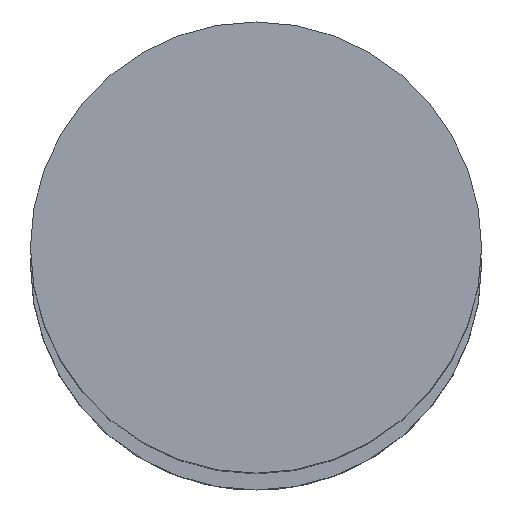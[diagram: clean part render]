
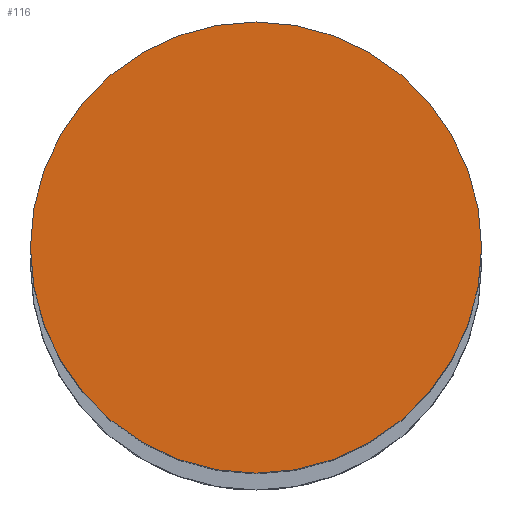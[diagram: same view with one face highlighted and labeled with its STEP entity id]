
A CAD part, top view. The second image highlights one B-rep face of the part: STEP entity #116.
In plain terms, the highlighted planar face has unit normal (0, 0, 1).
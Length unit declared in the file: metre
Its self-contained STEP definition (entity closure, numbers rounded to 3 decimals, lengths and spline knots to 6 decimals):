
#116=ADVANCED_FACE('0:129',(#224),#225,.T.);
#224=FACE_OUTER_BOUND('',#324,.T.);
#225=PLANE('',#325);
#324=EDGE_LOOP('',(#539,#540));
#325=AXIS2_PLACEMENT_3D('',#541,#542,#543);
#539=ORIENTED_EDGE('',*,*,#591,.F.);
#540=ORIENTED_EDGE('',*,*,#641,.F.);
#541=CARTESIAN_POINT('',(0.,0.,0.27));
#542=DIRECTION('',(0.0,0.0,1.0));
#543=DIRECTION('',(1.0,0.0,0.0));
#591=EDGE_CURVE('',#712,#708,#714,.F.);
#641=EDGE_CURVE('',#708,#712,#778,.F.);
#708=VERTEX_POINT('',#859);
#712=VERTEX_POINT('',#864);
#714=CIRCLE('',#867,0.008);
#778=CIRCLE('',#939,0.008);
#859=CARTESIAN_POINT('',(0.00789,0.000133,0.27));
#864=CARTESIAN_POINT('',(-0.00811,0.000133,0.27));
#867=AXIS2_PLACEMENT_3D('',#1002,#1003,#1004);
#939=AXIS2_PLACEMENT_3D('',#1076,#1077,#1078);
#1002=CARTESIAN_POINT('',(-0.00011,0.000133,0.27));
#1003=DIRECTION('',(0.0,0.0,1.0));
#1004=DIRECTION('',(1.0,0.0,0.0));
#1076=CARTESIAN_POINT('',(-0.00011,0.000133,0.27));
#1077=DIRECTION('',(0.0,0.0,1.0));
#1078=DIRECTION('',(1.0,0.0,0.0));
